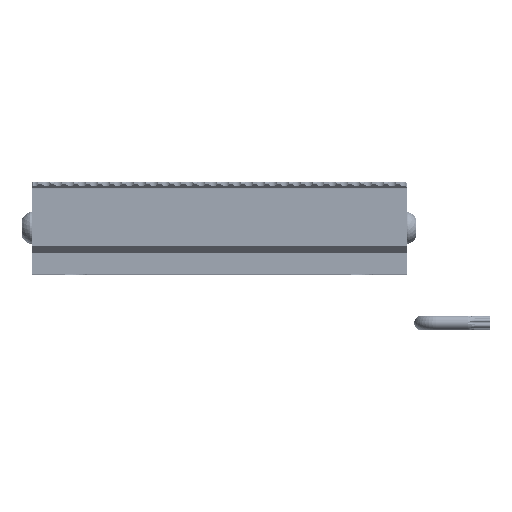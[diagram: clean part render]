
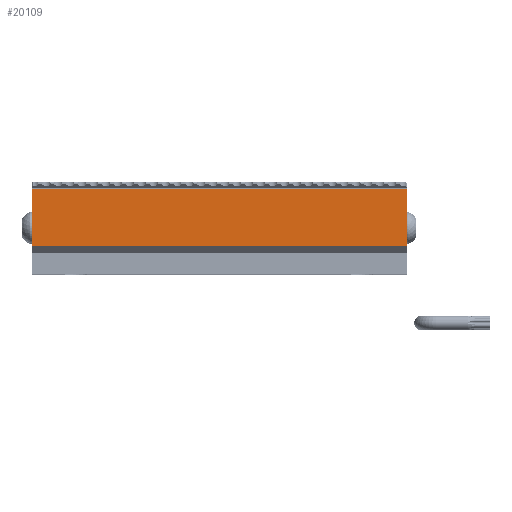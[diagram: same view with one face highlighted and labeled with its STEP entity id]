
A CAD part, top view. The second image highlights one B-rep face of the part: STEP entity #20109.
In plain terms, the highlighted planar face has unit normal (0, 0, 1) as drawn and (1, 0, 0) by its records, which use the part's own axes.
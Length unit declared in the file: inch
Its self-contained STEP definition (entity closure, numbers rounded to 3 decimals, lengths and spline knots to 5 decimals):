
#141 = CARTESIAN_POINT ( 'NONE',  ( 2.20472, 0.24052, -2.475 ) ) ;
#261 = VECTOR ( 'NONE', #7654, 39.37008 ) ;
#1423 = LINE ( 'NONE', #8160, #3060 ) ;
#1570 = EDGE_CURVE ( 'NONE', #14228, #20689, #1423, .T. ) ;
#2404 = ORIENTED_EDGE ( 'NONE', *, *, #17659, .F. ) ;
#2410 = CARTESIAN_POINT ( 'NONE',  ( 2.20472, 0.98698, 2.475 ) ) ;
#2623 = ORIENTED_EDGE ( 'NONE', *, *, #1570, .T. ) ;
#2805 = CARTESIAN_POINT ( 'NONE',  ( 2.20472, 0.98698, 2.475 ) ) ;
#3012 = ORIENTED_EDGE ( 'NONE', *, *, #5294, .F. ) ;
#3060 = VECTOR ( 'NONE', #15089, 39.37008 ) ;
#5294 = EDGE_CURVE ( 'NONE', #14228, #9198, #19712, .T. ) ;
#6128 = CARTESIAN_POINT ( 'NONE',  ( 2.20472, 0.98698, -2.475 ) ) ;
#6355 = DIRECTION ( 'NONE',  ( 0., 0., -1. ) ) ;
#7148 = CARTESIAN_POINT ( 'NONE',  ( 2.20472, 0.24052, 2.475 ) ) ;
#7654 = DIRECTION ( 'NONE',  ( 0., 1., 0. ) ) ;
#8160 = CARTESIAN_POINT ( 'NONE',  ( 2.20472, 0.24052, 2.475 ) ) ;
#8391 = FACE_OUTER_BOUND ( 'NONE', #17815, .T. ) ;
#8974 = AXIS2_PLACEMENT_3D ( 'NONE', #2805, #13376, #15214 ) ;
#9198 = VERTEX_POINT ( 'NONE', #16683 ) ;
#9902 = EDGE_CURVE ( 'NONE', #20689, #12259, #11233, .T. ) ;
#11233 = LINE ( 'NONE', #6128, #17969 ) ;
#12259 = VERTEX_POINT ( 'NONE', #12917 ) ;
#12917 = CARTESIAN_POINT ( 'NONE',  ( 2.20472, 0.98698, -2.475 ) ) ;
#13376 = DIRECTION ( 'NONE',  ( -1., 0., 0. ) ) ;
#14072 = VECTOR ( 'NONE', #6355, 39.37008 ) ;
#14228 = VERTEX_POINT ( 'NONE', #7148 ) ;
#14985 = PLANE ( 'NONE',  #8974 ) ;
#15089 = DIRECTION ( 'NONE',  ( 0., 0., -1. ) ) ;
#15105 = LINE ( 'NONE', #16610, #14072 ) ;
#15214 = DIRECTION ( 'NONE',  ( 0., 0., 1. ) ) ;
#16610 = CARTESIAN_POINT ( 'NONE',  ( 2.20472, 0.98698, 2.475 ) ) ;
#16683 = CARTESIAN_POINT ( 'NONE',  ( 2.20472, 0.98698, 2.475 ) ) ;
#17659 = EDGE_CURVE ( 'NONE', #9198, #12259, #15105, .T. ) ;
#17815 = EDGE_LOOP ( 'NONE', ( #3012, #2623, #20285, #2404 ) ) ;
#17969 = VECTOR ( 'NONE', #19892, 39.37008 ) ;
#19712 = LINE ( 'NONE', #2410, #261 ) ;
#19892 = DIRECTION ( 'NONE',  ( 0., 1., 0. ) ) ;
#20109 = ADVANCED_FACE ( 'NONE', ( #8391 ), #14985, .F. ) ;
#20285 = ORIENTED_EDGE ( 'NONE', *, *, #9902, .T. ) ;
#20689 = VERTEX_POINT ( 'NONE', #141 ) ;
